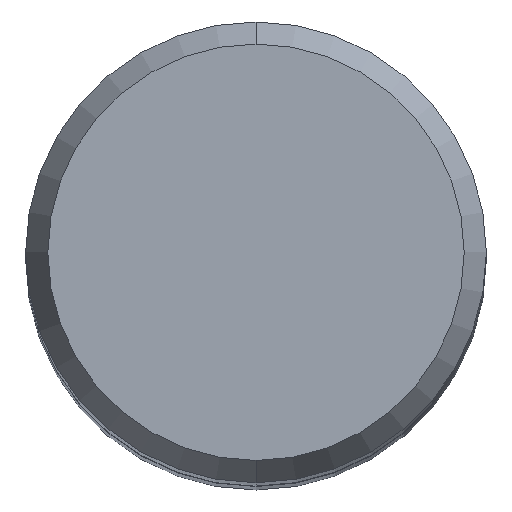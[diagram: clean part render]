
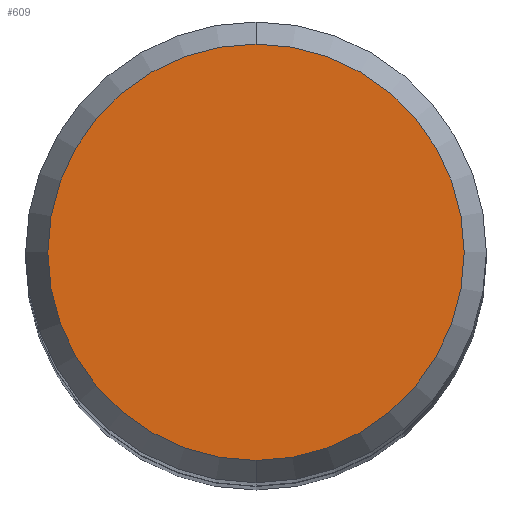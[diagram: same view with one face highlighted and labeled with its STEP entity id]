
A CAD part, top view. The second image highlights one B-rep face of the part: STEP entity #609.
In plain terms, the highlighted planar face has unit normal (0, 0, 1).
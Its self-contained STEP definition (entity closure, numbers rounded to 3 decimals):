
#255=VERTEX_POINT('',#681);
#449=EDGE_CURVE('',#255,#451,#899,.T.);
#451=VERTEX_POINT('',#901);
#527=EDGE_CURVE('',#451,#255,#983,.T.);
#609=ADVANCED_FACE('',(#1074),#1075,.T.);
#681=CARTESIAN_POINT('',(0.,-5.423,0.0));
#899=CIRCLE('',#1530,5.423);
#901=CARTESIAN_POINT('',(0.0,5.423,0.0));
#983=CIRCLE('',#1715,5.423);
#1074=FACE_OUTER_BOUND('',#1921,.T.);
#1075=PLANE('',#1922);
#1530=AXIS2_PLACEMENT_3D('',#2259,#2260,#2261);
#1715=AXIS2_PLACEMENT_3D('',#2347,#2348,#2349);
#1921=EDGE_LOOP('',(#2462,#2463));
#1922=AXIS2_PLACEMENT_3D('',#2464,#2465,#2466);
#2259=CARTESIAN_POINT('',(0.0,0.0,0.0));
#2260=DIRECTION('',(0.0,0.0,-1.0));
#2261=DIRECTION('',(0.0,1.0,0.0));
#2347=CARTESIAN_POINT('',(0.0,0.0,0.0));
#2348=DIRECTION('',(0.0,0.0,-1.0));
#2349=DIRECTION('',(0.0,1.0,0.0));
#2462=ORIENTED_EDGE('',*,*,#527,.F.);
#2463=ORIENTED_EDGE('',*,*,#449,.F.);
#2464=CARTESIAN_POINT('',(0.0,2.711,0.0));
#2465=DIRECTION('',(-0.0,0.0,1.0));
#2466=DIRECTION('',(0.0,-1.0,0.0));
